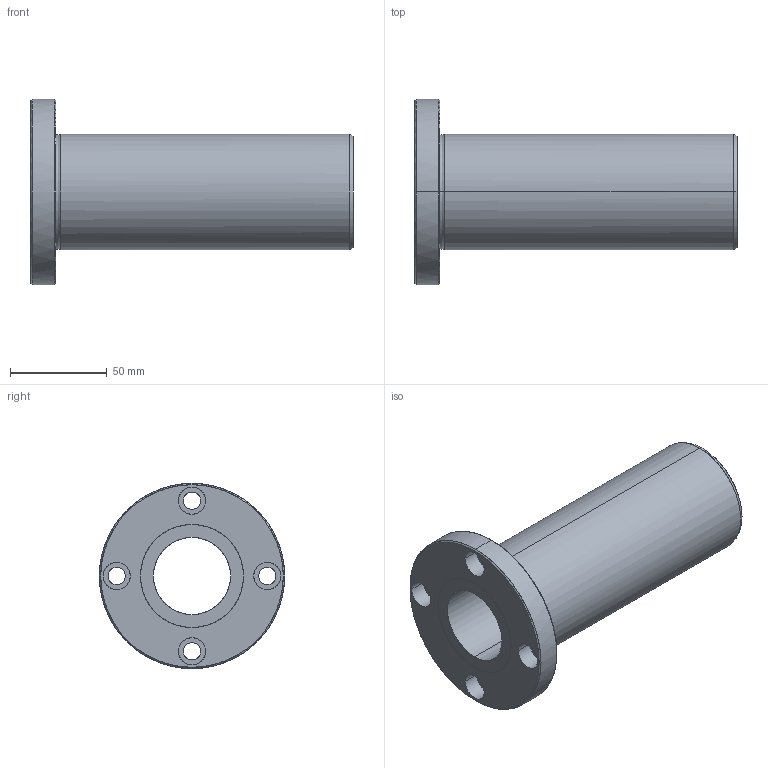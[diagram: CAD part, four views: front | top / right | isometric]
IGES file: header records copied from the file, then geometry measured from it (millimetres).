
Global section: file name: No Iges File Name specified; native system: AutoDesk Inventor R11.0; preprocessor: AutoDesk Inventor Iges Exporter R11.0; author: No Author specified; organization: No Organization specified; date: 20170921.140425; units: millimetre
Bounding box: 167 x 96 x 96 mm (x, y, z)
Surface area: 67102.8 mm2 (no closed solid volume)
Topology: 0 solids, 0 shells, 43 faces, 308 edges, 308 vertices
Faces by surface type: bspline 43
